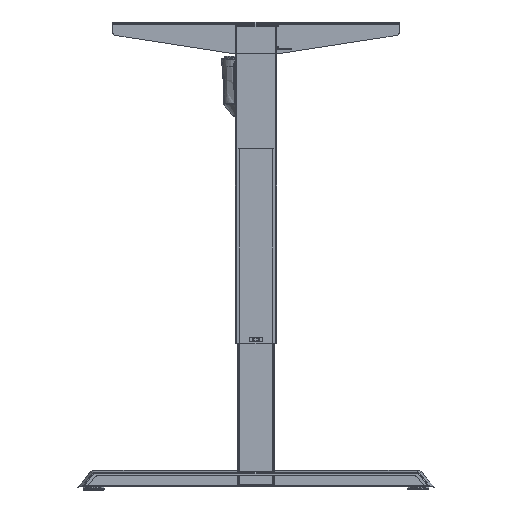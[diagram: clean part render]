
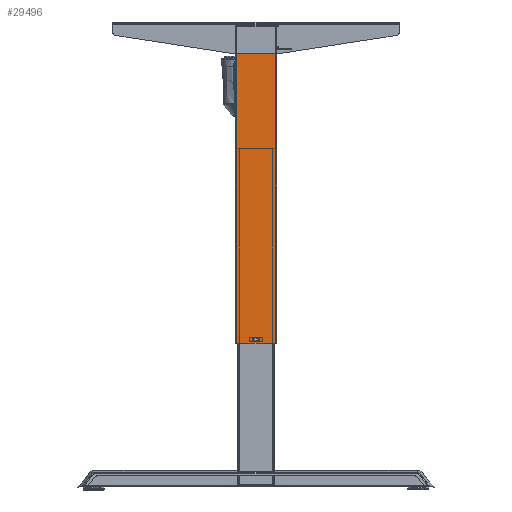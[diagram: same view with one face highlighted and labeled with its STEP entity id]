
A CAD part, left-side view. The second image highlights one B-rep face of the part: STEP entity #29496.
In plain terms, the highlighted planar face has unit normal (-1, 0, 0).
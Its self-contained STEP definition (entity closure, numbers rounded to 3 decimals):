
#1270 = LINE ( 'NONE', #96356, #58123 ) ;
#4370 = CARTESIAN_POINT ( 'NONE',  ( -30., -6., 6. ) ) ;
#6186 = PLANE ( 'NONE',  #77084 ) ;
#9219 = VECTOR ( 'NONE', #18192, 1000. ) ;
#12374 = LINE ( 'NONE', #83048, #62015 ) ;
#13457 = DIRECTION ( 'NONE',  ( 0., -1., 0. ) ) ;
#13461 = LINE ( 'NONE', #24727, #34738 ) ;
#16068 = LINE ( 'NONE', #81300, #52732 ) ;
#17159 = CARTESIAN_POINT ( 'NONE',  ( -30., 37., 609. ) ) ;
#18192 = DIRECTION ( 'NONE',  ( 0., 0., -1. ) ) ;
#18516 = CARTESIAN_POINT ( 'NONE',  ( -30., -6., 10. ) ) ;
#19265 = ORIENTED_EDGE ( 'NONE', *, *, #42905, .T. ) ;
#20939 = CARTESIAN_POINT ( 'NONE',  ( -30., -6., 10. ) ) ;
#21742 = DIRECTION ( 'NONE',  ( 0., 1., 0. ) ) ;
#22256 = ORIENTED_EDGE ( 'NONE', *, *, #45480, .T. ) ;
#22602 = CARTESIAN_POINT ( 'NONE',  ( -30., 37., 614. ) ) ;
#24051 = CARTESIAN_POINT ( 'NONE',  ( -30., -37., 0. ) ) ;
#24727 = CARTESIAN_POINT ( 'NONE',  ( -30., 6., 10. ) ) ;
#28032 = ORIENTED_EDGE ( 'NONE', *, *, #62413, .T. ) ;
#29496 = ADVANCED_FACE ( 'NONE', ( #36788, #92304 ), #6186, .F. ) ;
#30145 = ORIENTED_EDGE ( 'NONE', *, *, #60301, .F. ) ;
#31315 = DIRECTION ( 'NONE',  ( 0., 1., 0. ) ) ;
#33888 = VERTEX_POINT ( 'NONE', #55458 ) ;
#34138 = LINE ( 'NONE', #48999, #86078 ) ;
#34738 = VECTOR ( 'NONE', #39877, 1000. ) ;
#34951 = ORIENTED_EDGE ( 'NONE', *, *, #57037, .F. ) ;
#35648 = CARTESIAN_POINT ( 'NONE',  ( -30., 37., 614. ) ) ;
#36788 = FACE_BOUND ( 'NONE', #39825, .T. ) ;
#37557 = CARTESIAN_POINT ( 'NONE',  ( -30., 6., 6. ) ) ;
#39825 = EDGE_LOOP ( 'NONE', ( #83644, #22256, #47558, #59293 ) ) ;
#39877 = DIRECTION ( 'NONE',  ( 0., 0., 1. ) ) ;
#41791 = LINE ( 'NONE', #74499, #52316 ) ;
#42905 = EDGE_CURVE ( 'NONE', #94224, #95901, #70453, .T. ) ;
#43246 = DIRECTION ( 'NONE',  ( 1., 0., 0. ) ) ;
#45480 = EDGE_CURVE ( 'NONE', #33888, #90296, #41791, .T. ) ;
#47171 = VERTEX_POINT ( 'NONE', #24051 ) ;
#47558 = ORIENTED_EDGE ( 'NONE', *, *, #47941, .T. ) ;
#47941 = EDGE_CURVE ( 'NONE', #90296, #90887, #69450, .T. ) ;
#48021 = VECTOR ( 'NONE', #89854, 1000. ) ;
#48999 = CARTESIAN_POINT ( 'NONE',  ( -30., 40., 609. ) ) ;
#50868 = DIRECTION ( 'NONE',  ( 0., 0., -1. ) ) ;
#50945 = EDGE_CURVE ( 'NONE', #63264, #33888, #13461, .T. ) ;
#52316 = VECTOR ( 'NONE', #13457, 1000. ) ;
#52732 = VECTOR ( 'NONE', #66452, 1000. ) ;
#55130 = VERTEX_POINT ( 'NONE', #74288 ) ;
#55458 = CARTESIAN_POINT ( 'NONE',  ( -30., 6., 10. ) ) ;
#57023 = EDGE_LOOP ( 'NONE', ( #34951, #30145, #19265, #28032 ) ) ;
#57037 = EDGE_CURVE ( 'NONE', #55130, #47171, #1270, .T. ) ;
#58123 = VECTOR ( 'NONE', #50868, 1000. ) ;
#59293 = ORIENTED_EDGE ( 'NONE', *, *, #63533, .T. ) ;
#60301 = EDGE_CURVE ( 'NONE', #94224, #55130, #34138, .T. ) ;
#62015 = VECTOR ( 'NONE', #31315, 1000. ) ;
#62413 = EDGE_CURVE ( 'NONE', #95901, #47171, #16068, .T. ) ;
#63264 = VERTEX_POINT ( 'NONE', #37557 ) ;
#63533 = EDGE_CURVE ( 'NONE', #90887, #63264, #12374, .T. ) ;
#66452 = DIRECTION ( 'NONE',  ( 0., -1., 0. ) ) ;
#69450 = LINE ( 'NONE', #18516, #9219 ) ;
#70453 = LINE ( 'NONE', #22602, #48021 ) ;
#74288 = CARTESIAN_POINT ( 'NONE',  ( -30., -37., 609. ) ) ;
#74499 = CARTESIAN_POINT ( 'NONE',  ( -30., 6., 10. ) ) ;
#77084 = AXIS2_PLACEMENT_3D ( 'NONE', #35648, #43246, #21742 ) ;
#80077 = CARTESIAN_POINT ( 'NONE',  ( -30., 37., 0. ) ) ;
#81300 = CARTESIAN_POINT ( 'NONE',  ( -30., 37., 0. ) ) ;
#83048 = CARTESIAN_POINT ( 'NONE',  ( -30., 6., 6. ) ) ;
#83644 = ORIENTED_EDGE ( 'NONE', *, *, #50945, .T. ) ;
#86078 = VECTOR ( 'NONE', #87217, 1000. ) ;
#87217 = DIRECTION ( 'NONE',  ( 0., -1., 0. ) ) ;
#89854 = DIRECTION ( 'NONE',  ( 0., 0., -1. ) ) ;
#90296 = VERTEX_POINT ( 'NONE', #20939 ) ;
#90887 = VERTEX_POINT ( 'NONE', #4370 ) ;
#92304 = FACE_OUTER_BOUND ( 'NONE', #57023, .T. ) ;
#94224 = VERTEX_POINT ( 'NONE', #17159 ) ;
#95901 = VERTEX_POINT ( 'NONE', #80077 ) ;
#96356 = CARTESIAN_POINT ( 'NONE',  ( -30., -37., 614. ) ) ;
